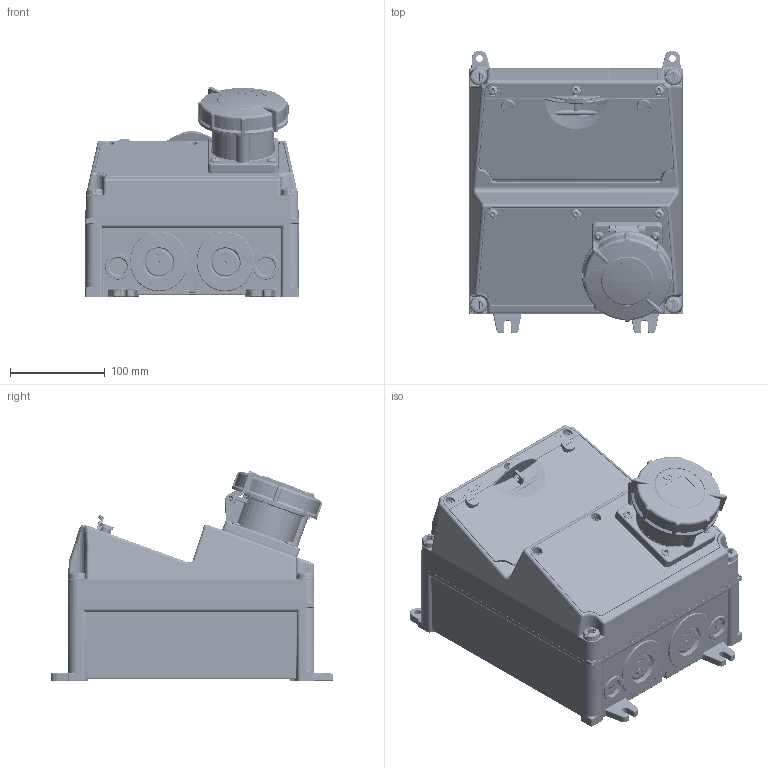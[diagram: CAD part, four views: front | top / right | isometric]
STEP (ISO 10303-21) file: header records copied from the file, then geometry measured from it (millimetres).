
FILE_DESCRIPTION((''),'2;1');
FILE_NAME('921022-1_ASM_1_ASM','2018-04-26T',('kremer'),('MENNEKES'),'PRO/ENGINEER BY PARAMETRIC TECHNOLOGY CORPORATION, 2015440','PRO/ENGINEER BY PARAMETRIC TECHNOLOGY CORPORATION, 2015440','');
FILE_SCHEMA(('AUTOMOTIVE_DESIGN { 1 0 10303 214 1 1 1 1 }'));
Products named in the file (6): 2-4_SW_O_FEHGRAU_1; FI_2POL_2TE_1; MP_LEER_FEHGRAU_1; MP_FEN10_67_OBEN_SCHWARZ_1; FL85X75_CEE_32_3_67_BLAU_1; 921022-1_ASM_1_ASM
Assembly tree (5 placements, depth 2):
  921022-1_ASM_1_ASM
    2-4_SW_O_FEHGRAU_1
    FI_2POL_2TE_1
    MP_LEER_FEHGRAU_1
    MP_FEN10_67_OBEN_SCHWARZ_1
    FL85X75_CEE_32_3_67_BLAU_1
Bounding box: 225 x 298.2 x 221.36 mm (x, y, z)
Volume: 5798727.9 mm3; surface area: 684003.8 mm2
Topology: 5 solids, 5 shells, 7538 faces, 20508 edges, 12917 vertices
Faces by surface type: plane 3588, cylinder 1924, bspline 838, torus 625, cone 272, sphere 191, extrusion 100
Entity records: 361594 total; most frequent: CARTESIAN_POINT 111620, ORIENTED_EDGE 40620, DIRECTION 34669, EDGE_CURVE 20310, VERTEX_POINT 12915, PRESENTATION_STYLE_ASSIGNMENT 12054, AXIS2_PLACEMENT_3D 11609, VECTOR 11451
